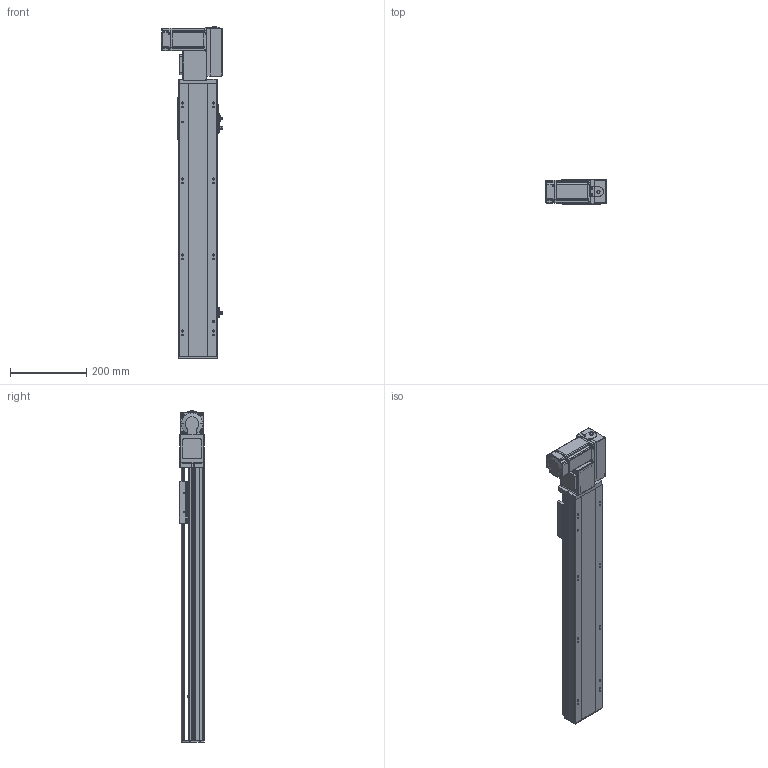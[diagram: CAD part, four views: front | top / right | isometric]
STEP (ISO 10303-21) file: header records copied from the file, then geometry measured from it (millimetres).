
FILE_DESCRIPTION (( 'STEP AP214' ), '1' );
FILE_NAME ('TPT10-L32-500-R-T10-C4.STEP', '2023-03-03T05:37:52', ( '' ), ( '' ), 'SwSTEP 2.0', 'SolidWorks 2020', '' );
FILE_SCHEMA (( 'AUTOMOTIVE_DESIGN' ));
Length unit declared in the file: millimetre
Products named in the file (12): 葩璃 TPT10-L-001 菁釱MZ-102A-01^TPT10-L32-R-T10-C4; 葩璃 TPT10-L-002 奻裔MZ-102A-02^TPT10-L32-R-T10-C4; hexagon head bolts-full thread gb_GB_FASTENER_BOLT_STBAB A M5X16-N; 葩璃 TPT10-L-005 賑釱MZ-102A-03^TPT10-L32-R-T10-C4; hexagon socket head cap screws gb_GB_FASTENER_SCREWS_HSHCS M3X6-N; 葩璃 TPT10-L-009 萇儂啣^TPT10-L32-R-T10-C4_100W; 葩璃 pm-t65-672^TPT10-L32-R-T10-C4; 葩璃 TPT10-L-007 々湍釱MZ-169x88^TPT10-L32-R-T10-C4_L; 葩璃 侂狟400W^TPT10-L32-R-T10-C4; 葩璃 侂狟100W^TPT10-L32-R-T10-C4; hex nuts, style 1-grades ab gb_GB_FASTENER_NUT_SNAB1 M3-N; TPT10-L32-500-R-T10-C4
Assembly tree (23 placements, depth 2):
  TPT10-L32-500-R-T10-C4
    葩璃 TPT10-L-001 菁釱MZ-102A-01^TPT10-L32-R-T10-C4
    葩璃 TPT10-L-002 奻裔MZ-102A-02^TPT10-L32-R-T10-C4
    葩璃 TPT10-L-007 々湍釱MZ-169x88^TPT10-L32-R-T10-C4_L
    葩璃 TPT10-L-005 賑釱MZ-102A-03^TPT10-L32-R-T10-C4
    葩璃 TPT10-L-009 萇儂啣^TPT10-L32-R-T10-C4_100W
    葩璃 pm-t65-672^TPT10-L32-R-T10-C4  x3
    葩璃 侂狟100W^TPT10-L32-R-T10-C4
    葩璃 侂狟400W^TPT10-L32-R-T10-C4
    hexagon head bolts-full thread gb_GB_FASTENER_BOLT_STBAB A M5X16-N
    hexagon socket head cap screws gb_GB_FASTENER_SCREWS_HSHCS M3X6-N  x6
    hex nuts, style 1-grades ab gb_GB_FASTENER_NUT_SNAB1 M3-N  x6
Bounding box: 160.7 x 66 x 873.65 mm (x, y, z)
Volume: 3061057.2 mm3; surface area: 632099.6 mm2
Topology: 31 solids, 31 shells, 1873 faces, 4895 edges, 3133 vertices
Faces by surface type: plane 1038, cylinder 599, cone 190, bspline 34, torus 12
Entity records: 46937 total; most frequent: CARTESIAN_POINT 9192, DIRECTION 7686, ORIENTED_EDGE 7422, EDGE_CURVE 3711, AXIS2_PLACEMENT_3D 2692, VERTEX_POINT 2424, LINE 2302, VECTOR 2302
